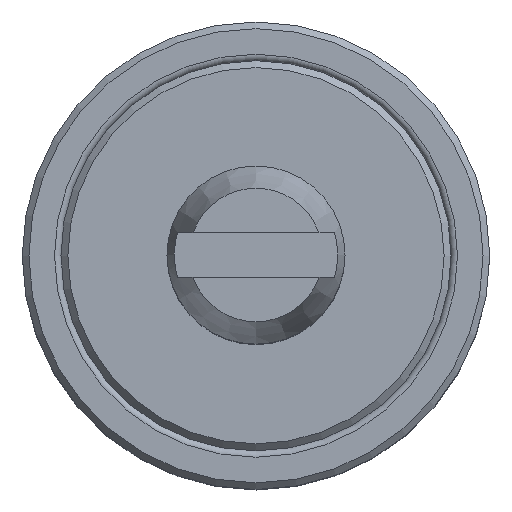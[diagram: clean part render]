
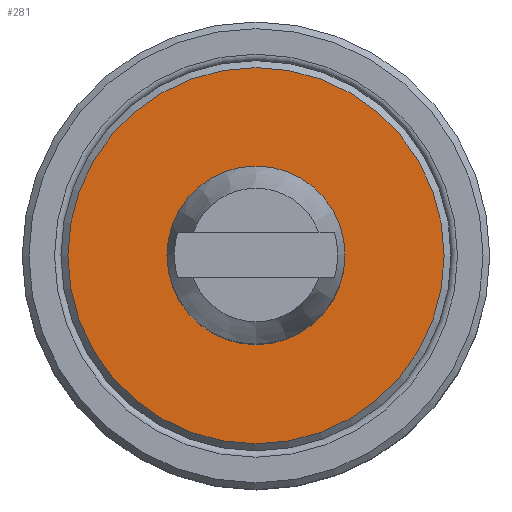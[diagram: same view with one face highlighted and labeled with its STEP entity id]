
A CAD part, top view. The second image highlights one B-rep face of the part: STEP entity #281.
In plain terms, the highlighted planar face has unit normal (0, 0, 1).
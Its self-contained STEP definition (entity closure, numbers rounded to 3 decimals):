
#21=FACE_BOUND('',#93,.T.);
#58=PLANE('',#311);
#69=FACE_OUTER_BOUND('',#92,.T.);
#92=EDGE_LOOP('',(#219));
#93=EDGE_LOOP('',(#220));
#129=CIRCLE('',#312,8.45);
#130=CIRCLE('',#313,3.);
#153=VERTEX_POINT('',#471);
#154=VERTEX_POINT('',#473);
#181=EDGE_CURVE('',#153,#153,#129,.T.);
#182=EDGE_CURVE('',#154,#154,#130,.T.);
#219=ORIENTED_EDGE('',*,*,#181,.T.);
#220=ORIENTED_EDGE('',*,*,#182,.F.);
#281=ADVANCED_FACE('',(#69,#21),#58,.T.);
#311=AXIS2_PLACEMENT_3D('',#470,#371,#372);
#312=AXIS2_PLACEMENT_3D('',#472,#373,#374);
#313=AXIS2_PLACEMENT_3D('',#474,#375,#376);
#371=DIRECTION('center_axis',(0.,0.,1.));
#372=DIRECTION('ref_axis',(1.,0.,0.));
#373=DIRECTION('center_axis',(0.,0.,1.));
#374=DIRECTION('ref_axis',(0.,-1.,0.));
#375=DIRECTION('center_axis',(0.,0.,1.));
#376=DIRECTION('ref_axis',(0.,-1.,0.));
#470=CARTESIAN_POINT('Origin',(0.,-1.5,0.));
#471=CARTESIAN_POINT('',(0.,-8.45,0.));
#472=CARTESIAN_POINT('Origin',(0.,0.,0.));
#473=CARTESIAN_POINT('',(0.,-3.,0.));
#474=CARTESIAN_POINT('Origin',(0.,0.,0.));
